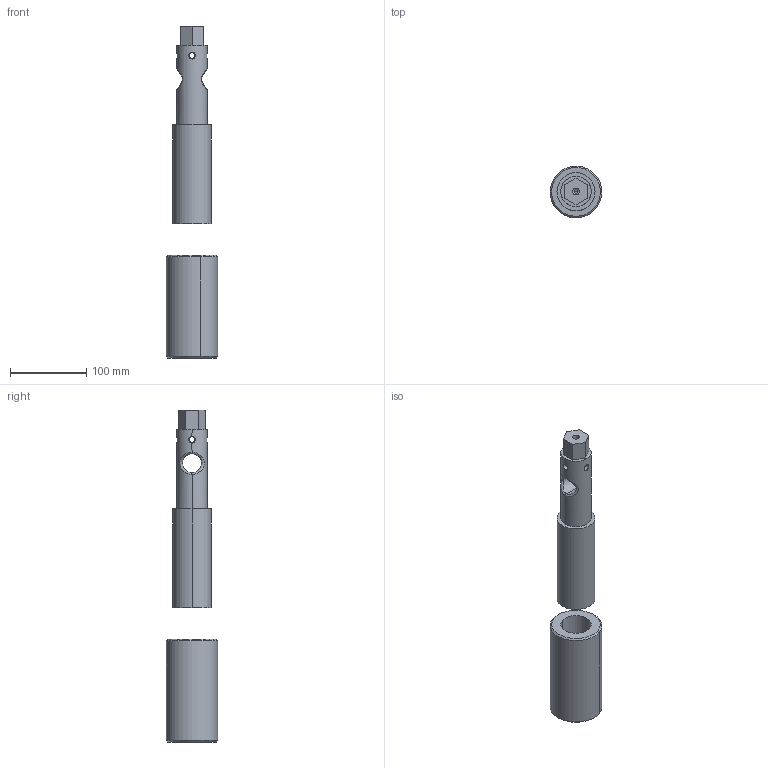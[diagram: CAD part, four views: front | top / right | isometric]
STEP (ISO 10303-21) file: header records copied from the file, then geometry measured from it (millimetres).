
FILE_DESCRIPTION (( 'STEP AP214' ), '1' );
FILE_NAME ('YYDK-500-0041-3 佪話郪璃.STEP', '2025-06-18T08:15:48', ( 'Windows 蚚誧' ), ( '' ), 'SwSTEP 2.0', 'SolidWorks 2020', '' );
FILE_SCHEMA (( 'AUTOMOTIVE_DESIGN' ));
Length unit declared in the file: millimetre
Products named in the file (3): YYDK-500-0041-3 佪話郪璃; YYDK-500-0045 丝杠（500T）; YYDK-500-0044 ﾋｿｸﾜﾌﾗﾍｲ_ﾄｬﾈﾏ<ｰｴｼﾓｹ､>
Assembly tree (2 placements, depth 2):
  YYDK-500-0041-3 佪話郪璃
    YYDK-500-0045 丝杠（500T）
    YYDK-500-0044 ﾋｿｸﾜﾌﾗﾍｲ_ﾄｬﾈﾏ<ｰｴｼﾓｹ､>
Bounding box: 68 x 68 x 436.53 mm (x, y, z)
Volume: 698543.4 mm3; surface area: 94111.7 mm2
Topology: 2 solids, 2 shells, 60 faces, 177 edges, 114 vertices
Faces by surface type: cylinder 28, plane 14, bspline 12, cone 6
Entity records: 9348 total; most frequent: CARTESIAN_POINT 7772, ORIENTED_EDGE 354, DIRECTION 239, EDGE_CURVE 177, VERTEX_POINT 114, AXIS2_PLACEMENT_3D 90, B_SPLINE_CURVE_WITH_KNOTS 73, EDGE_LOOP 67
